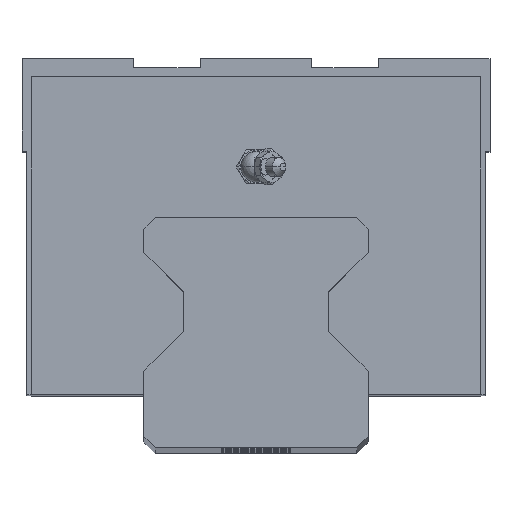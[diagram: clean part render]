
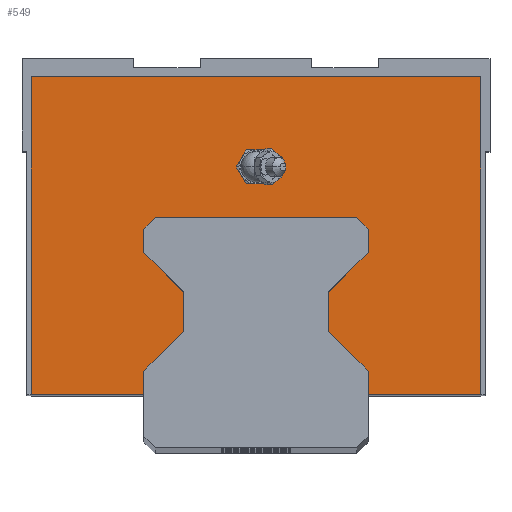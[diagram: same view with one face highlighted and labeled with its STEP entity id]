
A CAD part, top view. The second image highlights one B-rep face of the part: STEP entity #549.
In plain terms, the highlighted planar face has unit normal (0, 0, 1).
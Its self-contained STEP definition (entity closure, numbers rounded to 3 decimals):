
#549=ADVANCED_FACE('',(#1262,#1263),#1264,.T.);
#1262=FACE_BOUND('',#2123,.T.);
#1263=FACE_OUTER_BOUND('',#2124,.T.);
#1264=PLANE('',#2125);
#2123=EDGE_LOOP('',(#3738,#3739));
#2124=EDGE_LOOP('',(#3740,#3741,#3742,#3743,#3744,#3745,#3746,#3747,#3748,#3749,#3750,#3751,#3752,#3753,#3754,#3755,#3756,#3757));
#2125=AXIS2_PLACEMENT_3D('',#3758,#3759,#3760);
#3738=ORIENTED_EDGE('',*,*,#5384,.T.);
#3739=ORIENTED_EDGE('',*,*,#5549,.T.);
#3740=ORIENTED_EDGE('',*,*,#5550,.F.);
#3741=ORIENTED_EDGE('',*,*,#5551,.F.);
#3742=ORIENTED_EDGE('',*,*,#5552,.F.);
#3743=ORIENTED_EDGE('',*,*,#5553,.F.);
#3744=ORIENTED_EDGE('',*,*,#5214,.F.);
#3745=ORIENTED_EDGE('',*,*,#5093,.F.);
#3746=ORIENTED_EDGE('',*,*,#5476,.F.);
#3747=ORIENTED_EDGE('',*,*,#5178,.F.);
#3748=ORIENTED_EDGE('',*,*,#5554,.F.);
#3749=ORIENTED_EDGE('',*,*,#5328,.F.);
#3750=ORIENTED_EDGE('',*,*,#5555,.F.);
#3751=ORIENTED_EDGE('',*,*,#5556,.F.);
#3752=ORIENTED_EDGE('',*,*,#5557,.F.);
#3753=ORIENTED_EDGE('',*,*,#5558,.F.);
#3754=ORIENTED_EDGE('',*,*,#5559,.F.);
#3755=ORIENTED_EDGE('',*,*,#5239,.F.);
#3756=ORIENTED_EDGE('',*,*,#5560,.F.);
#3757=ORIENTED_EDGE('',*,*,#5561,.F.);
#3758=CARTESIAN_POINT('',(0.0,22.292,-31.05));
#3759=DIRECTION('',(0.,0.,1.0));
#3760=DIRECTION('',(1.0,0.0,0.));
#5093=EDGE_CURVE('',#6160,#6162,#6163,.T.);
#5178=EDGE_CURVE('',#6296,#6299,#6300,.T.);
#5214=EDGE_CURVE('',#6162,#6357,#6358,.T.);
#5239=EDGE_CURVE('',#6393,#6396,#6397,.T.);
#5328=EDGE_CURVE('',#6527,#6530,#6531,.T.);
#5384=EDGE_CURVE('',#6607,#6611,#6613,.T.);
#5476=EDGE_CURVE('',#6299,#6160,#6749,.T.);
#5549=EDGE_CURVE('',#6611,#6607,#6844,.T.);
#5550=EDGE_CURVE('',#6845,#6846,#6847,.T.);
#5551=EDGE_CURVE('',#6848,#6845,#6849,.T.);
#5552=EDGE_CURVE('',#6850,#6848,#6851,.T.);
#5553=EDGE_CURVE('',#6357,#6850,#6852,.T.);
#5554=EDGE_CURVE('',#6530,#6296,#6853,.T.);
#5555=EDGE_CURVE('',#6854,#6527,#6855,.T.);
#5556=EDGE_CURVE('',#6856,#6854,#6857,.T.);
#5557=EDGE_CURVE('',#6858,#6856,#6859,.T.);
#5558=EDGE_CURVE('',#6860,#6858,#6861,.T.);
#5559=EDGE_CURVE('',#6396,#6860,#6862,.T.);
#5560=EDGE_CURVE('',#6863,#6393,#6864,.T.);
#5561=EDGE_CURVE('',#6846,#6863,#6865,.T.);
#6160=VERTEX_POINT('',#7588);
#6162=VERTEX_POINT('',#7591);
#6163=LINE('',#7592,#7593);
#6296=VERTEX_POINT('',#7840);
#6299=VERTEX_POINT('',#7844);
#6300=LINE('',#7845,#7846);
#6357=VERTEX_POINT('',#7921);
#6358=LINE('',#7922,#7923);
#6393=VERTEX_POINT('',#7985);
#6396=VERTEX_POINT('',#7989);
#6397=LINE('',#7990,#7991);
#6527=VERTEX_POINT('',#8215);
#6530=VERTEX_POINT('',#8219);
#6531=LINE('',#8220,#8221);
#6607=VERTEX_POINT('',#8369);
#6611=VERTEX_POINT('',#8374);
#6613=CIRCLE('',#8377,1.59);
#6749=LINE('',#8606,#8607);
#6844=CIRCLE('',#8793,1.59);
#6845=VERTEX_POINT('',#8794);
#6846=VERTEX_POINT('',#8795);
#6847=LINE('',#8796,#8797);
#6848=VERTEX_POINT('',#8798);
#6849=LINE('',#8799,#8800);
#6850=VERTEX_POINT('',#8801);
#6851=LINE('',#8802,#8803);
#6852=LINE('',#8804,#8805);
#6853=LINE('',#8806,#8807);
#6854=VERTEX_POINT('',#8808);
#6855=LINE('',#8809,#8810);
#6856=VERTEX_POINT('',#8811);
#6857=LINE('',#8812,#8813);
#6858=VERTEX_POINT('',#8814);
#6859=LINE('',#8815,#8816);
#6860=VERTEX_POINT('',#8817);
#6861=LINE('',#8818,#8819);
#6862=LINE('',#8820,#8821);
#6863=VERTEX_POINT('',#8822);
#6864=LINE('',#8823,#8824);
#6865=LINE('',#8825,#8826);
#7588=CARTESIAN_POINT('',(-23.05,5.5,-31.05));
#7591=CARTESIAN_POINT('',(-23.05,38.1,-31.05));
#7592=CARTESIAN_POINT('',(-23.05,5.5,-31.05));
#7593=VECTOR('',#9705,1000.0);
#7840=CARTESIAN_POINT('',(-11.5,7.86,-31.05));
#7844=CARTESIAN_POINT('',(-11.5,5.5,-31.05));
#7845=CARTESIAN_POINT('',(-11.5,7.86,-31.05));
#7846=VECTOR('',#9800,1000.0);
#7921=CARTESIAN_POINT('',(23.05,38.1,-31.05));
#7922=CARTESIAN_POINT('',(-23.05,38.1,-31.05));
#7923=VECTOR('',#9849,1000.0);
#7985=CARTESIAN_POINT('',(11.5,20.06,-31.05));
#7989=CARTESIAN_POINT('',(11.5,22.42,-31.05));
#7990=CARTESIAN_POINT('',(11.5,20.06,-31.05));
#7991=VECTOR('',#9879,1000.0);
#8215=CARTESIAN_POINT('',(-7.433,15.993,-31.05));
#8219=CARTESIAN_POINT('',(-7.433,11.927,-31.05));
#8220=CARTESIAN_POINT('',(-7.433,15.993,-31.05));
#8221=VECTOR('',#9987,1000.0);
#8369=CARTESIAN_POINT('',(1.59,28.85,-31.05));
#8374=CARTESIAN_POINT('',(-1.59,28.85,-31.05));
#8377=AXIS2_PLACEMENT_3D('',#10043,#10044,#10045);
#8606=CARTESIAN_POINT('',(-23.05,5.5,-31.05));
#8607=VECTOR('',#10180,1000.0);
#8793=AXIS2_PLACEMENT_3D('',#10234,#10235,#10236);
#8794=CARTESIAN_POINT('',(11.5,7.86,-31.05));
#8795=CARTESIAN_POINT('',(7.433,11.927,-31.05));
#8796=CARTESIAN_POINT('',(11.5,7.86,-31.05));
#8797=VECTOR('',#10237,1000.0);
#8798=CARTESIAN_POINT('',(11.5,5.5,-31.05));
#8799=CARTESIAN_POINT('',(11.5,5.5,-31.05));
#8800=VECTOR('',#10238,1000.0);
#8801=CARTESIAN_POINT('',(23.05,5.5,-31.05));
#8802=CARTESIAN_POINT('',(23.05,5.5,-31.05));
#8803=VECTOR('',#10239,1000.0);
#8804=CARTESIAN_POINT('',(23.05,38.1,-31.05));
#8805=VECTOR('',#10240,1000.0);
#8806=CARTESIAN_POINT('',(-7.433,11.927,-31.05));
#8807=VECTOR('',#10241,1000.0);
#8808=CARTESIAN_POINT('',(-11.5,20.06,-31.05));
#8809=CARTESIAN_POINT('',(-11.5,20.06,-31.05));
#8810=VECTOR('',#10242,1000.0);
#8811=CARTESIAN_POINT('',(-11.5,22.42,-31.05));
#8812=CARTESIAN_POINT('',(-11.5,22.42,-31.05));
#8813=VECTOR('',#10243,1000.0);
#8814=CARTESIAN_POINT('',(-10.32,23.6,-31.05));
#8815=CARTESIAN_POINT('',(-10.32,23.6,-31.05));
#8816=VECTOR('',#10244,1000.0);
#8817=CARTESIAN_POINT('',(10.32,23.6,-31.05));
#8818=CARTESIAN_POINT('',(10.32,23.6,-31.05));
#8819=VECTOR('',#10245,1000.0);
#8820=CARTESIAN_POINT('',(11.5,22.42,-31.05));
#8821=VECTOR('',#10246,1000.0);
#8822=CARTESIAN_POINT('',(7.433,15.993,-31.05));
#8823=CARTESIAN_POINT('',(7.433,15.993,-31.05));
#8824=VECTOR('',#10247,1000.0);
#8825=CARTESIAN_POINT('',(7.433,11.927,-31.05));
#8826=VECTOR('',#10248,1000.0);
#9705=DIRECTION('',(0.0,1.0,0.0));
#9800=DIRECTION('',(0.0,-1.0,0.0));
#9849=DIRECTION('',(1.0,0.0,0.0));
#9879=DIRECTION('',(0.0,1.0,0.0));
#9987=DIRECTION('',(0.0,-1.0,0.0));
#10043=CARTESIAN_POINT('',(0.0,28.85,-31.05));
#10044=DIRECTION('',(0.,0.,-1.0));
#10045=DIRECTION('',(1.0,0.,0.));
#10180=DIRECTION('',(-1.0,-0.0,-0.0));
#10234=CARTESIAN_POINT('',(0.0,28.85,-31.05));
#10235=DIRECTION('',(0.,0.,-1.0));
#10236=DIRECTION('',(1.0,0.,0.));
#10237=DIRECTION('',(-0.707,0.707,0.0));
#10238=DIRECTION('',(0.0,1.0,0.0));
#10239=DIRECTION('',(-1.0,0.0,0.0));
#10240=DIRECTION('',(0.0,-1.0,0.0));
#10241=DIRECTION('',(-0.707,-0.707,0.0));
#10242=DIRECTION('',(0.707,-0.707,0.0));
#10243=DIRECTION('',(0.0,-1.0,0.0));
#10244=DIRECTION('',(-0.707,-0.707,0.0));
#10245=DIRECTION('',(-1.0,0.0,0.0));
#10246=DIRECTION('',(-0.707,0.707,0.0));
#10247=DIRECTION('',(0.707,0.707,0.0));
#10248=DIRECTION('',(0.0,1.0,0.0));
